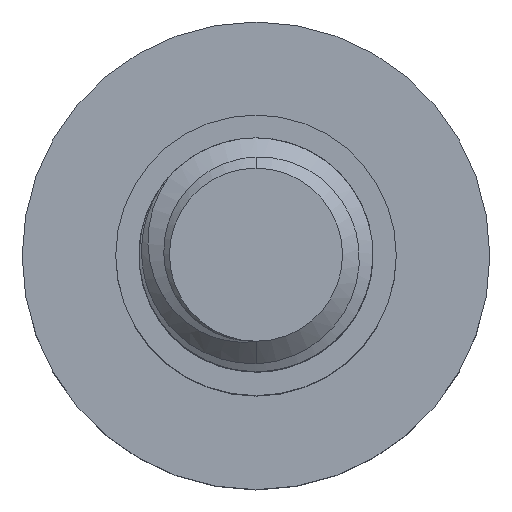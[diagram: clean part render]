
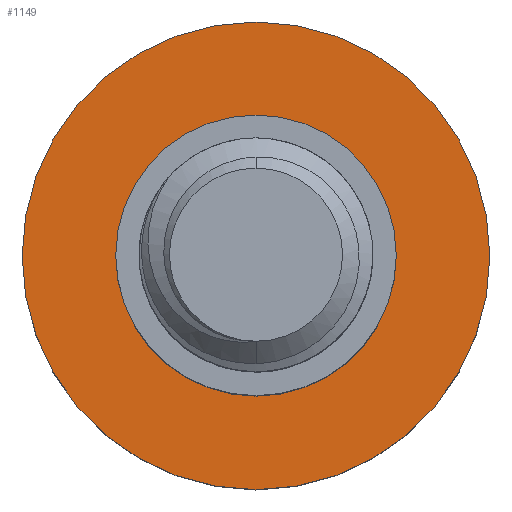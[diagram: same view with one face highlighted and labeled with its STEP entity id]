
A CAD part, top view. The second image highlights one B-rep face of the part: STEP entity #1149.
In plain terms, the highlighted planar face has unit normal (0, 0, 1).
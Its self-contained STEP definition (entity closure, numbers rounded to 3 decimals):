
#67 = DIRECTION ( 'NONE',  ( -1., 0., 0. ) ) ;
#217 = ORIENTED_EDGE ( 'NONE', *, *, #1634, .T. ) ;
#310 = AXIS2_PLACEMENT_3D ( 'NONE', #1951, #337, #67 ) ;
#337 = DIRECTION ( 'NONE',  ( 0., 0., -1. ) ) ;
#357 = AXIS2_PLACEMENT_3D ( 'NONE', #1644, #2751, #2476 ) ;
#361 = ORIENTED_EDGE ( 'NONE', *, *, #2378, .T. ) ;
#385 = VERTEX_POINT ( 'NONE', #455 ) ;
#455 = CARTESIAN_POINT ( 'NONE',  ( 10., 0., -12. ) ) ;
#529 = AXIS2_PLACEMENT_3D ( 'NONE', #2567, #1235, #2609 ) ;
#544 = DIRECTION ( 'NONE',  ( 0., 0., -1. ) ) ;
#652 = EDGE_CURVE ( 'NONE', #385, #1577, #2725, .T. ) ;
#983 = CIRCLE ( 'NONE', #529, 10. ) ;
#1018 = CARTESIAN_POINT ( 'NONE',  ( 0., 0., -12. ) ) ;
#1021 = VERTEX_POINT ( 'NONE', #1377 ) ;
#1141 = FACE_BOUND ( 'NONE', #2022, .T. ) ;
#1149 = ADVANCED_FACE ( 'NONE', ( #1141, #1439 ), #2207, .F. ) ;
#1235 = DIRECTION ( 'NONE',  ( 0., 0., -1. ) ) ;
#1356 = DIRECTION ( 'NONE',  ( -1., 0., 0. ) ) ;
#1377 = CARTESIAN_POINT ( 'NONE',  ( 6., 0., -12. ) ) ;
#1430 = CIRCLE ( 'NONE', #1903, 6. ) ;
#1439 = FACE_OUTER_BOUND ( 'NONE', #2952, .T. ) ;
#1544 = CARTESIAN_POINT ( 'NONE',  ( -6., 0., -12. ) ) ;
#1577 = VERTEX_POINT ( 'NONE', #1896 ) ;
#1634 = EDGE_CURVE ( 'NONE', #1796, #1021, #2880, .T. ) ;
#1644 = CARTESIAN_POINT ( 'NONE',  ( 0., 0., -12. ) ) ;
#1649 = ORIENTED_EDGE ( 'NONE', *, *, #2331, .F. ) ;
#1665 = ORIENTED_EDGE ( 'NONE', *, *, #652, .F. ) ;
#1796 = VERTEX_POINT ( 'NONE', #1544 ) ;
#1896 = CARTESIAN_POINT ( 'NONE',  ( -10., 0., -12. ) ) ;
#1903 = AXIS2_PLACEMENT_3D ( 'NONE', #3008, #544, #2480 ) ;
#1951 = CARTESIAN_POINT ( 'NONE',  ( 0., 0., -12. ) ) ;
#2022 = EDGE_LOOP ( 'NONE', ( #217, #361 ) ) ;
#2207 = PLANE ( 'NONE',  #310 ) ;
#2331 = EDGE_CURVE ( 'NONE', #1577, #385, #983, .T. ) ;
#2378 = EDGE_CURVE ( 'NONE', #1021, #1796, #1430, .T. ) ;
#2476 = DIRECTION ( 'NONE',  ( -1., 0., 0. ) ) ;
#2480 = DIRECTION ( 'NONE',  ( -1., 0., 0. ) ) ;
#2567 = CARTESIAN_POINT ( 'NONE',  ( 0., 0., -12. ) ) ;
#2609 = DIRECTION ( 'NONE',  ( -1., 0., 0. ) ) ;
#2725 = CIRCLE ( 'NONE', #357, 10. ) ;
#2751 = DIRECTION ( 'NONE',  ( 0., 0., -1. ) ) ;
#2880 = CIRCLE ( 'NONE', #3050, 6. ) ;
#2952 = EDGE_LOOP ( 'NONE', ( #1665, #1649 ) ) ;
#3008 = CARTESIAN_POINT ( 'NONE',  ( 0., 0., -12. ) ) ;
#3050 = AXIS2_PLACEMENT_3D ( 'NONE', #1018, #3208, #1356 ) ;
#3208 = DIRECTION ( 'NONE',  ( 0., 0., -1. ) ) ;
